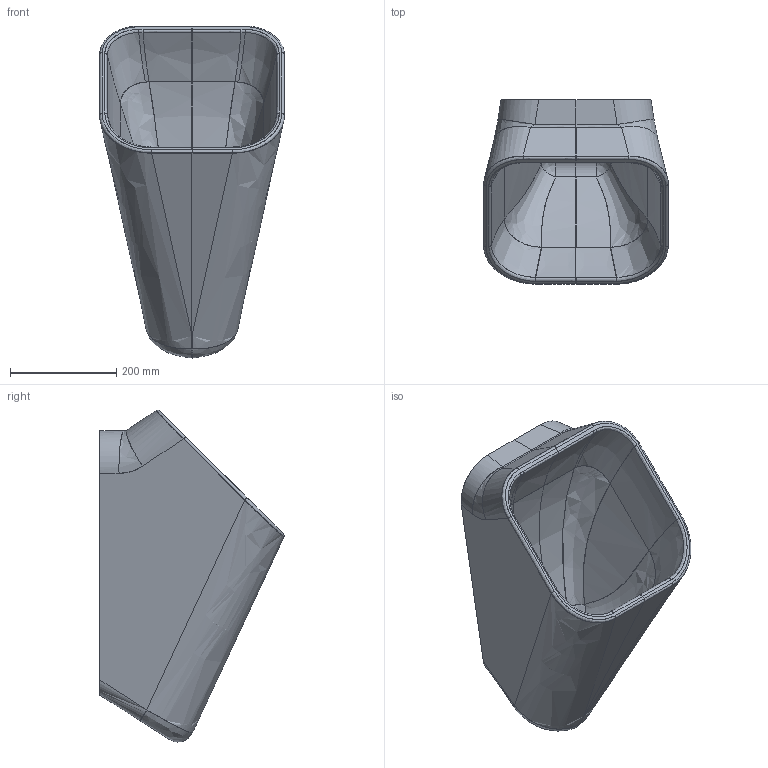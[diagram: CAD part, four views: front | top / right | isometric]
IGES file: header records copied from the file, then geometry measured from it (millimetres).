
Start section: START RECORD GO HERE.
Global section: file name: 5408_orinatoio meg.igs; native system: DASSAULT SYSTEMES CATIA V5 R19 - www.3ds.com; preprocessor: CATIA Version 5 Release 19 SP 5 ; author: gioge; organization: LAPTOP-G94B6G74; date: 20200630.162617; units: millimetre
Bounding box: 347.81 x 346.76 x 624.98 mm (x, y, z)
Surface area: 1374050.7 mm2 (no closed solid volume)
Topology: 0 solids, 0 shells, 223 faces, 1040 edges, 1023 vertices
Faces by surface type: bspline 193, plane 30
